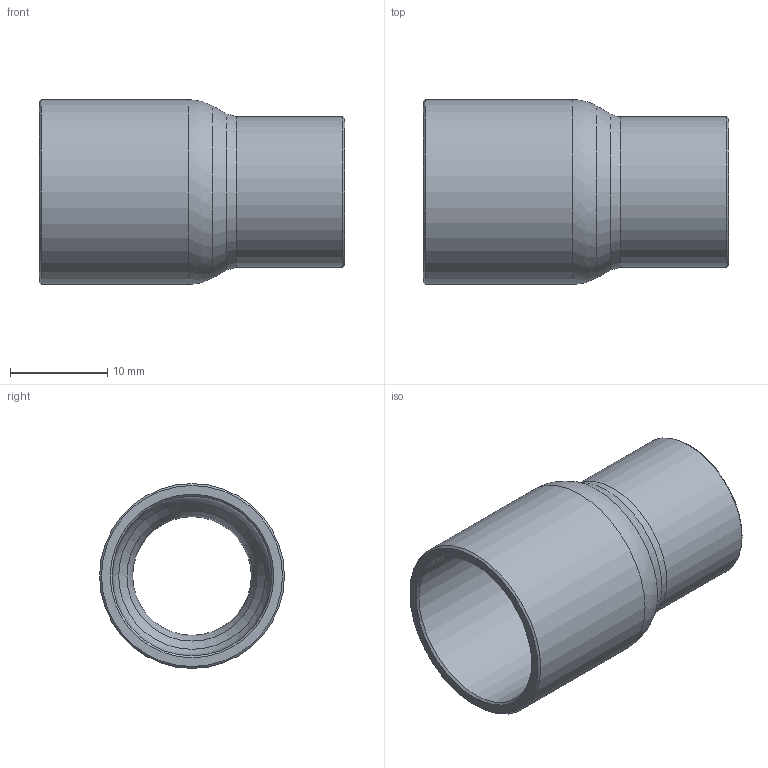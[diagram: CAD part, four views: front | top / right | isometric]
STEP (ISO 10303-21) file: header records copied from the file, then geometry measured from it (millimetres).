
FILE_DESCRIPTION((''),'2;1');
FILE_NAME('G:\SANHA-Ternat\Technik\Management\Bouwmaten + markeringen\z-maattekeningen 3D\29000s\292433412_3d.stp','2017-08-03T15:45:12',('vdvijverd'),(''),'Autodesk Inventor 2009','Autodesk Inventor 2009','');
FILE_SCHEMA(('AUTOMOTIVE_DESIGN { 1 0 10303 214 1 1 1 1 }'));
Length unit declared in the file: millimetre
Products named in the file (1): 292433412_3d
Bounding box: 31.5 x 19.05 x 19.05 mm (x, y, z)
Volume: 2169.3 mm3; surface area: 3361 mm2
Topology: 1 solids, 1 shells, 17 faces, 32 edges, 17 vertices
Faces by surface type: cone 6, cylinder 4, bspline 4, plane 2, torus 1
Full cylindrical faces by diameter (mm): 12.82 x1, 15.52 x1, 16.45 x1, 19.05 x1
Entity records: 534 total; most frequent: CARTESIAN_POINT 228, DIRECTION 62, ORIENTED_EDGE 34, EDGE_LOOP 34, AXIS2_PLACEMENT_3D 31, VERTEX_POINT 17, CIRCLE 17, EDGE_CURVE 17
